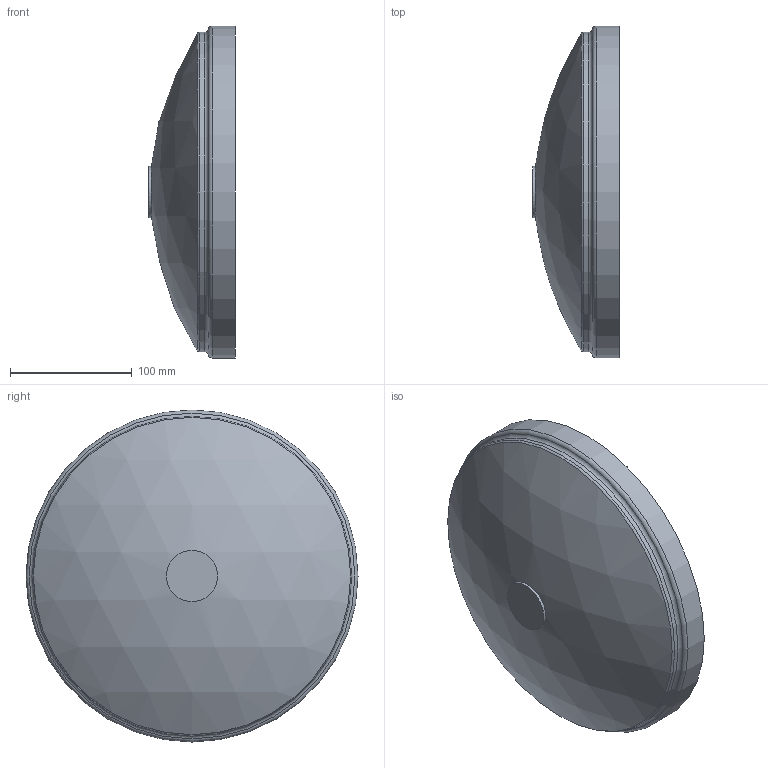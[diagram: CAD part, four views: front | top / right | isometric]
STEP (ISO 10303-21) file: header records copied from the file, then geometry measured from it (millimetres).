
FILE_DESCRIPTION(/* description */ ('VIC STRENGTHIN CAP No E496 w/Tap 1/2 inch BSPT (Concentric)','CAx-IF Rec.Pracs.---Representation and Presentation of Product Manufacturing Information (PMI)---4.0---2014-10-13'),/* implementation_level */ '2;1');
FILE_NAME(/* name */ 'C:\Users\Vjadhav\AppData\Roaming\Autodesk\ApplicationPlugins\Back Up\Victaulic_SS-StrengThin 100_Cap With Tap_No E496 (ST1)\Victaulic_SS-StrengThin 100_Cap With Tap_No E496 (ST1)_10.0x01.25 (250x32).stp',/* time_stamp */ '2020-07-07T18:47:23+05:00',/* author */ ('jheald'),/* organization */ ('Victaulic'),/* preprocessor_version */ 'ST-DEVELOPER v17.2',/* originating_system */ 'Autodesk Inventor 2019',/* authorisation */ '');
FILE_SCHEMA (('AP242_MANAGED_MODEL_BASED_3D_ENGINEERING_MIM_LF { 1 0 10303 442 1 1 4 }'));
Length unit declared in the file: inch
Products named in the file (1): E496-10.0x01.25
Bounding box: 71.12 x 273.05 x 273.05 mm (x, y, z)
Volume: 647052.9 mm3; surface area: 167533.1 mm2
Topology: 1 solids, 1 shells, 12 faces, 27 edges, 19 vertices
Faces by surface type: cylinder 4, torus 4, plane 2, sphere 2
Full cylindrical faces by diameter (mm): 42.164 x1, 254.508 x1, 262.636 x1, 273.05 x1
Entity records: 502 total; most frequent: DIRECTION 102, CARTESIAN_POINT 76, ORIENTED_EDGE 54, AXIS2_PLACEMENT_3D 49, EDGE_CURVE 27, CIRCLE 23, VERTEX_POINT 19, EDGE_LOOP 14
